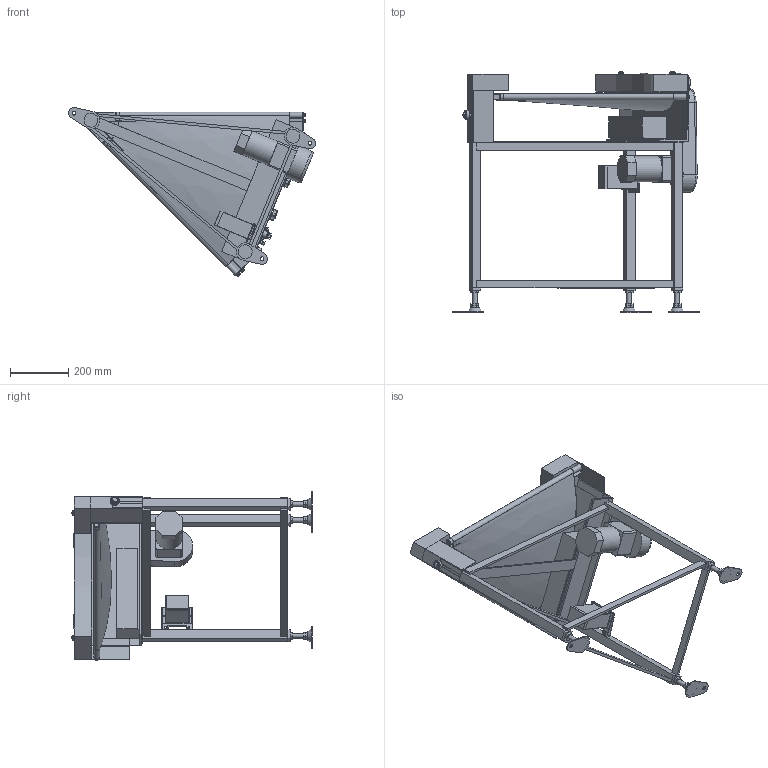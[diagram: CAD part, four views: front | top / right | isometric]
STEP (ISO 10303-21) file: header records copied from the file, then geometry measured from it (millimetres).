
FILE_DESCRIPTION (( 'STEP AP214' ), '1' );
FILE_NAME ('GBC45-UD500-R.STEP', '2022-12-05T07:31:22', ( '' ), ( '' ), 'SwSTEP 2.0', 'SolidWorks 2017', '' );
FILE_SCHEMA (( 'AUTOMOTIVE_DESIGN' ));
Length unit declared in the file: millimetre
Products named in the file (1): GBC45-UD500-R
Bounding box: 848.72 x 827.92 x 579.91 mm (x, y, z)
Volume: 15096901.2 mm3; surface area: 2970366.2 mm2
Topology: 56 solids, 56 shells, 896 faces, 2047 edges, 1321 vertices
Faces by surface type: plane 576, cylinder 185, bspline 71, cone 49, torus 8, sphere 7
Full cylindrical faces by diameter (mm): 4.2 x4, 4.5 x2, 5 x4, 6 x13, 6.4 x4, 7 x3, 8 x1, 9 x2, 10 x6, 12 x1, 12.2 x2, 12.5 x7, 13 x7, 15 x4, 16 x10, 18 x2, 18.4 x1, 20 x6, 21 x1, 22.2 x1, 25 x1, 30 x1, 89 x1
Entity records: 33131 total; most frequent: CARTESIAN_POINT 13320, ORIENTED_EDGE 3794, DIRECTION 3727, EDGE_CURVE 1897, VERTEX_POINT 1292, AXIS2_PLACEMENT_3D 1258, LINE 1211, VECTOR 1211
